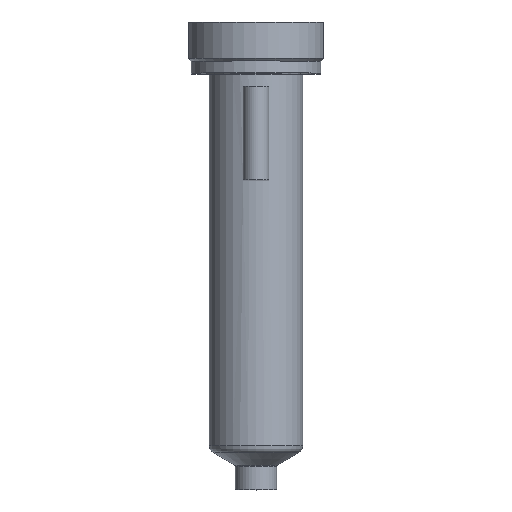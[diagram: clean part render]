
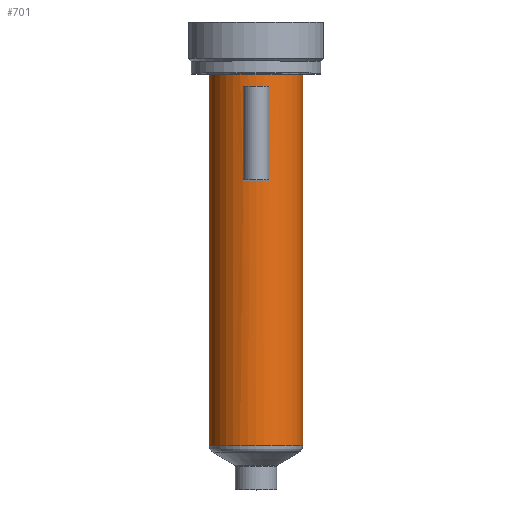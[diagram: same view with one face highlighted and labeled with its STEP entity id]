
A CAD part, top view. The second image highlights one B-rep face of the part: STEP entity #701.
In plain terms, the highlighted cylindrical face has radius 9 mm (diameter 18 mm), a partial arc.
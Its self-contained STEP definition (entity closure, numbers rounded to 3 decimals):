
#193=DIRECTION('',(0.,-1.,0.));
#194=VECTOR('',#193,71.544);
#195=CARTESIAN_POINT('',(9.,0.,0.));
#196=LINE('',#195,#194);
#197=CARTESIAN_POINT('',(0.,-71.544,0.));
#198=DIRECTION('',(0.,1.,0.));
#199=DIRECTION('',(-1.,0.,0.));
#200=AXIS2_PLACEMENT_3D('',#197,#198,#199);
#202=DIRECTION('',(0.,1.,0.));
#203=VECTOR('',#202,71.544);
#204=CARTESIAN_POINT('',(-9.,-71.544,0.));
#205=LINE('',#204,#203);
#206=CARTESIAN_POINT('',(0.,0.,0.));
#207=DIRECTION('',(0.,1.,0.));
#208=DIRECTION('',(-1.,0.,0.));
#209=AXIS2_PLACEMENT_3D('',#206,#207,#208);
#211=DIRECTION('',(0.,-1.,0.));
#212=VECTOR('',#211,18.);
#213=CARTESIAN_POINT('',(-2.5,-2.5,8.646));
#214=LINE('',#213,#212);
#215=DIRECTION('',(0.,1.,0.));
#216=VECTOR('',#215,18.);
#217=CARTESIAN_POINT('',(2.5,-20.5,8.646));
#218=LINE('',#217,#216);
#299=CARTESIAN_POINT('',(0.,-2.5,0.));
#300=DIRECTION('',(0.,-1.,0.));
#301=DIRECTION('',(0.278,0.,0.961));
#302=AXIS2_PLACEMENT_3D('',#299,#300,#301);
#317=CARTESIAN_POINT('',(0.,-20.5,0.));
#318=DIRECTION('',(0.,1.,0.));
#319=DIRECTION('',(-0.278,0.,0.961));
#320=AXIS2_PLACEMENT_3D('',#317,#318,#319);
#396=CARTESIAN_POINT('',(-9.,0.,0.));
#397=CARTESIAN_POINT('',(9.,0.,0.));
#398=VERTEX_POINT('',#396);
#399=VERTEX_POINT('',#397);
#408=CARTESIAN_POINT('',(-2.5,-2.5,8.646));
#409=VERTEX_POINT('',#408);
#410=CARTESIAN_POINT('',(2.5,-2.5,8.646));
#411=VERTEX_POINT('',#410);
#448=CARTESIAN_POINT('',(9.,-71.544,0.));
#449=VERTEX_POINT('',#448);
#458=CARTESIAN_POINT('',(-9.,-71.544,0.));
#459=VERTEX_POINT('',#458);
#460=CARTESIAN_POINT('',(-2.5,-20.5,8.646));
#461=CARTESIAN_POINT('',(2.5,-20.5,8.646));
#462=VERTEX_POINT('',#460);
#463=VERTEX_POINT('',#461);
#679=CARTESIAN_POINT('',(0.,11.15,0.));
#680=DIRECTION('',(0.,-1.,0.));
#681=DIRECTION('',(-1.,0.,0.));
#682=AXIS2_PLACEMENT_3D('',#679,#680,#681);
#683=CYLINDRICAL_SURFACE('',#682,9.);
#684=ORIENTED_EDGE('',*,*,#673,.T.);
#686=ORIENTED_EDGE('',*,*,#685,.F.);
#687=ORIENTED_EDGE('',*,*,#669,.T.);
#688=ORIENTED_EDGE('',*,*,#659,.T.);
#689=EDGE_LOOP('',(#684,#686,#687,#688));
#690=FACE_OUTER_BOUND('',#689,.F.);
#692=ORIENTED_EDGE('',*,*,#691,.T.);
#694=ORIENTED_EDGE('',*,*,#693,.T.);
#696=ORIENTED_EDGE('',*,*,#695,.T.);
#698=ORIENTED_EDGE('',*,*,#697,.T.);
#699=EDGE_LOOP('',(#692,#694,#696,#698));
#700=FACE_BOUND('',#699,.F.);
#701=ADVANCED_FACE('',(#690,#700),#683,.T.);
#201=CIRCLE('',#200,9.);
#210=CIRCLE('',#209,9.);
#303=CIRCLE('',#302,9.);
#321=CIRCLE('',#320,9.);
#659=EDGE_CURVE('',#398,#399,#210,.T.);
#669=EDGE_CURVE('',#459,#398,#205,.T.);
#673=EDGE_CURVE('',#399,#449,#196,.T.);
#685=EDGE_CURVE('',#459,#449,#201,.T.);
#691=EDGE_CURVE('',#409,#462,#214,.T.);
#693=EDGE_CURVE('',#462,#463,#321,.T.);
#695=EDGE_CURVE('',#463,#411,#218,.T.);
#697=EDGE_CURVE('',#411,#409,#303,.T.);
